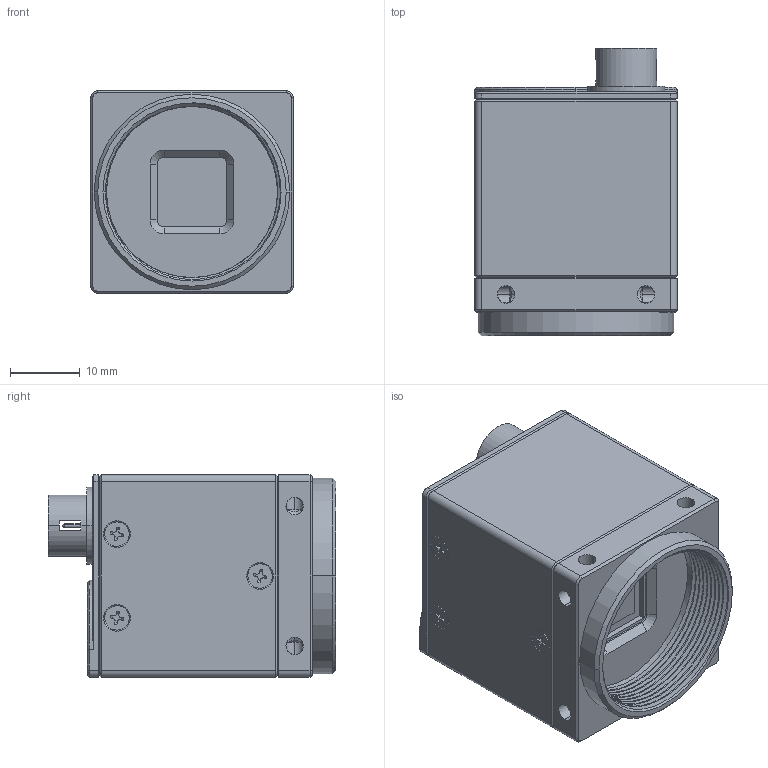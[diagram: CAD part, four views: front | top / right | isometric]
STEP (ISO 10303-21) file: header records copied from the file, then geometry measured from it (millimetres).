
FILE_DESCRIPTION (( 'STEP AP203' ), '1' );
FILE_NAME ('U3V-CS.STEP', '2023-04-15T06:56:59', ( '' ), ( '' ), 'SwSTEP 2.0', 'SolidWorks 2022', '' );
FILE_SCHEMA (( 'CONFIG_CONTROL_DESIGN' ));
Products named in the file (1): U3V-CS
Bounding box: 29 x 41.2 x 29 mm (x, y, z)
Volume: 14650.1 mm3; surface area: 21310.7 mm2
Topology: 32 solids, 32 shells, 1380 faces, 3515 edges, 2199 vertices
Faces by surface type: cylinder 526, plane 510, cone 303, bspline 41
Entity records: 46640 total; most frequent: CARTESIAN_POINT 14271, ORIENTED_EDGE 6914, DIRECTION 6427, EDGE_CURVE 3457, AXIS2_PLACEMENT_3D 2362, VERTEX_POINT 2199, VECTOR 1703, LINE 1703
